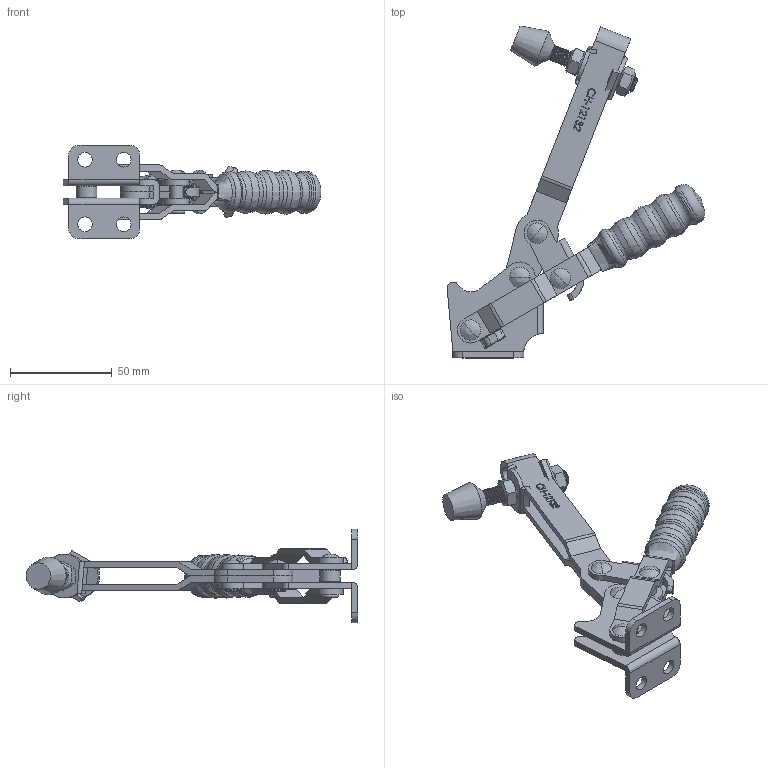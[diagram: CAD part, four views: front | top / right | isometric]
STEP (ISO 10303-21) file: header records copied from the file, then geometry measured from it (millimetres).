
FILE_DESCRIPTION(/* description */ ('STEP AP203'),/* implementation_level */ '2;1');
FILE_NAME(/* name */ 'D:\Vault_2016\Projekty\NASZ KATALOG\CLAMPTEK\STRONA\Vertical toggle clamp\CH-12132\CH-12132_OTWARTY.stp',/* time_stamp */ '2019-01-18T12:38:15+01:00',/* author */ ('CADENGINEERING4'),/* organization */ ('Î¢ÈíÖÐ¹ú'),/* preprocessor_version */ 'ST-DEVELOPER v17.2',/* originating_system */ 'Autodesk Inventor 2019',/* authorisation */ '');
FILE_SCHEMA (('AUTOMOTIVE_DESIGN { 1 0 10303 214 3 1 1 }'));
Products named in the file (12): CH-12132_OTWARTY; CH-12130-01 FLANGED BASE; CH-12130-07; CH-12130-08; CH-12130-04 CONNECTING-PLATE; CH-12130-06; CH-12130-05; CH-FW-516; CH-FC-56212 SPINDLE SUPPLIED; CH-12130-03 STRAIGHT HANDLE; CH-FC-56212 Nut; CH-12132-02 LONG U-BAR
Assembly tree (15 placements, depth 2):
  CH-12132_OTWARTY
    CH-12130-01 FLANGED BASE
    CH-12130-08  x2
    CH-12130-07
    CH-12130-06  x2
    CH-FW-516  x2
    CH-12130-04 CONNECTING-PLATE
    CH-12130-05
    CH-FC-56212 SPINDLE SUPPLIED
    CH-12130-03 STRAIGHT HANDLE
    CH-FC-56212 Nut  x2
    CH-12132-02 LONG U-BAR
Bounding box: 126.8 x 163.31 x 46 mm (x, y, z)
Volume: 62779.4 mm3; surface area: 48029.7 mm2
Topology: 18 solids, 18 shells, 715 faces, 1993 edges, 1336 vertices
Faces by surface type: plane 314, bspline 190, cylinder 156, cone 30, torus 25
Full cylindrical faces by diameter (mm): 2.554 x1, 2.949 x1, 3.9 x2, 6.3 x6, 6.4 x20, 6.8 x1, 7.2 x4, 7.92 x32, 8.1 x2, 8.4 x2, 10 x1, 20.847 x1
Entity records: 46620 total; most frequent: CARTESIAN_POINT 30195, ORIENTED_EDGE 3678, DIRECTION 2740, EDGE_CURVE 1839, VERTEX_POINT 1240, LINE 992, VECTOR 992, AXIS2_PLACEMENT_3D 874
